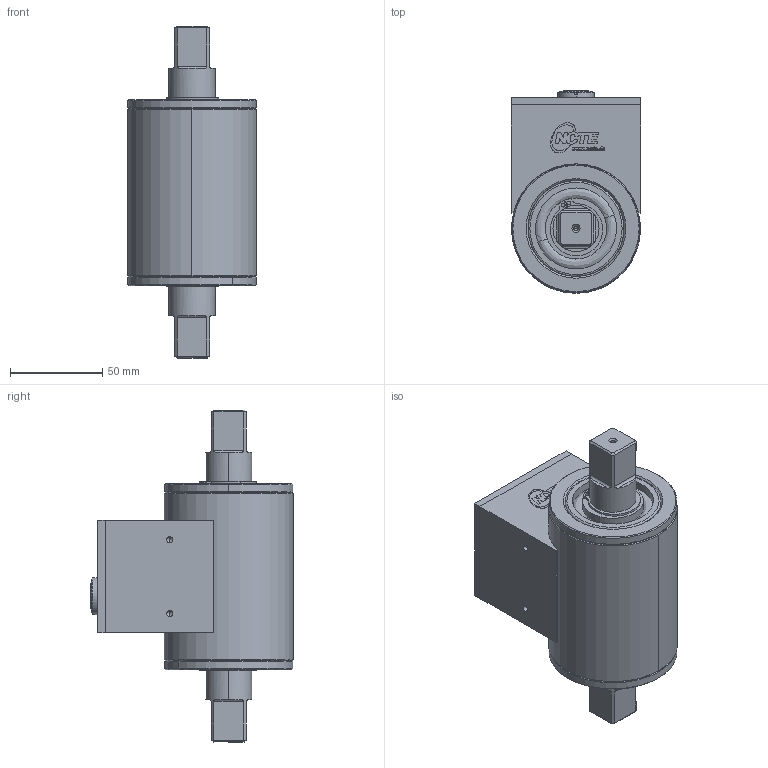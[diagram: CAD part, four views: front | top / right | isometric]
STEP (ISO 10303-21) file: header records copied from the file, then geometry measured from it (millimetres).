
FILE_DESCRIPTION (( 'STEP AP214' ), '1' );
FILE_NAME ('400007-ATS018_Sensor_Mb_250-500Nm_Vierkant_ohne_WS_IP65.STEP', '2016-11-29T09:59:45', ( '' ), ( '' ), 'SwSTEP 2.0', 'SolidWorks 2016', '' );
FILE_SCHEMA (( 'AUTOMOTIVE_DESIGN' ));
Length unit declared in the file: millimetre
Products named in the file (14): 400007-ATM013_Lagerdeckel_Mb-250-500Nm; Passscheibe DIN 988_DIN 988-42x52x1; 400007-ATM004_Welle25mm_Mb_250-500Nm_Vierkant; 400007-ATM016_Elektronikgehaeuse_Mb_250-500Nm; Seegering DIN 471_Circlip DIN 471 - 25 x 1.2; 400007-ATM010_Rohrgehaeuse_Mb-250-500Nm; DIN 625 - 6205 - 12,SI,NC,12_68_DIN 625 - 6205 - 12,SI,NC,12_68; 400007-ATS018_Sensor_Mb_250-500Nm_Vierkant_ohne_WS_IP65; 999999-ATM007-Tellerfeder_k_vorgespannt51,5x35,5_Standard; 400007-ATM019_Deckel_Elektronikgehäuse_Mb_250-500Nm; DIN 7991 - M3 x 10 --- 10S_DIN 7991 - M3 x 10 --- 10S; DIN 7991 - M4 x 10 --- 10S_DIN 7991 - M4 x 10 --- 10S; 999999-ATE042_Buchse-09-0132-90-12_12Pol_Standard; 999999-ATE072_Folientaster beleuchtet_Standard
Assembly tree (21 placements, depth 2):
  400007-ATS018_Sensor_Mb_250-500Nm_Vierkant_ohne_WS_IP65
    400007-ATM004_Welle25mm_Mb_250-500Nm_Vierkant
    400007-ATM010_Rohrgehaeuse_Mb-250-500Nm
    400007-ATM013_Lagerdeckel_Mb-250-500Nm  x2
    400007-ATM016_Elektronikgehaeuse_Mb_250-500Nm
    DIN 7991 - M4 x 10 --- 10S_DIN 7991 - M4 x 10 --- 10S  x2
    DIN 7991 - M3 x 10 --- 10S_DIN 7991 - M3 x 10 --- 10S  x4
    999999-ATE072_Folientaster beleuchtet_Standard
    999999-ATE042_Buchse-09-0132-90-12_12Pol_Standard
    DIN 625 - 6205 - 12,SI,NC,12_68_DIN 625 - 6205 - 12,SI,NC,12_68  x2
    400007-ATM019_Deckel_Elektronikgehäuse_Mb_250-500Nm
    Passscheibe DIN 988_DIN 988-42x52x1  x2
    Seegering DIN 471_Circlip DIN 471 - 25 x 1.2  x2
    999999-ATM007-Tellerfeder_k_vorgespannt51,5x35,5_Standard
Bounding box: 70 x 109.8 x 180 mm (x, y, z)
Surface area: 151119.3 mm2 (no closed solid volume)
Topology: 0 solids, 21 shells, 1512 faces, 3545 edges, 2122 vertices
Faces by surface type: cone 506, cylinder 488, plane 379, bspline 135, torus 4
Entity records: 31349 total; most frequent: CARTESIAN_POINT 8307, DIRECTION 4651, ORIENTED_EDGE 4626, EDGE_CURVE 2313, AXIS2_PLACEMENT_3D 1727, VERTEX_POINT 1455, LINE 1197, VECTOR 1197
